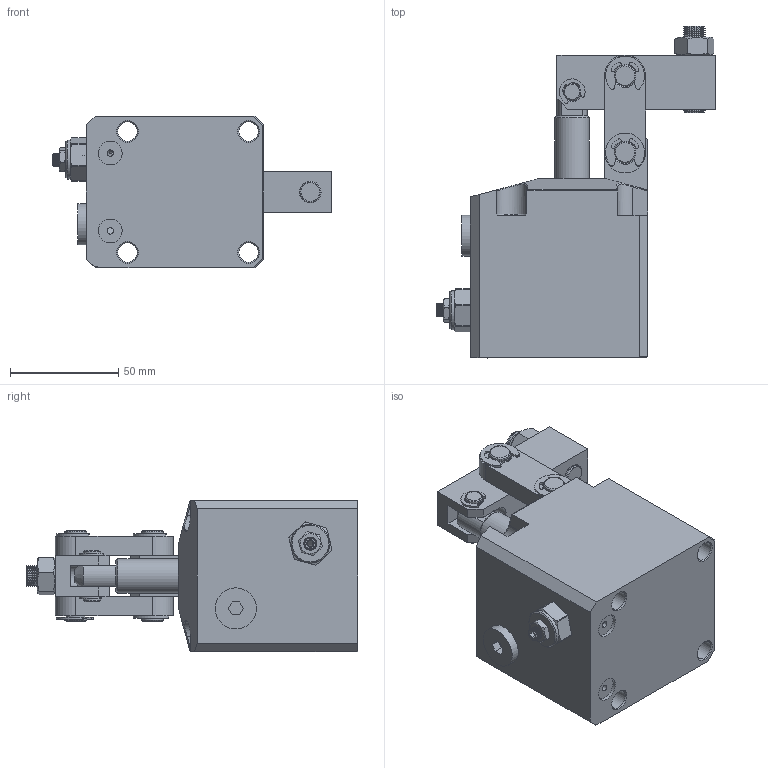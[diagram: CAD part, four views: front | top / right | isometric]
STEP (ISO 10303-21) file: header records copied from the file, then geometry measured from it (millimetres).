
FILE_DESCRIPTION(/* description */ ('STEP AP214'),/* implementation_level */ '2;1');
FILE_NAME(/* name */ 'D:\Vault_2016\Projekty\Clamptek\Hydraulic\CBLU\CBLU-45\STEP\CBLU-45C.stp',/* time_stamp */ '2021-05-06T12:37:13+02:00',/* author */ ('user'),/* organization */ (''),/* preprocessor_version */ 'ST-DEVELOPER v18.1',/* originating_system */ 'Autodesk Inventor 2021',/* authorisation */ '');
FILE_SCHEMA (('AUTOMOTIVE_DESIGN { 1 0 10303 214 3 1 1 }'));
Length unit declared in the file: millimetre
Products named in the file (13): CBLU-45C; 45C±¾Ìå_1_1_2; Á¬¸Ë; Áã¼þ3_1_2; 45Ñ¹°å; ¶ÌÏúÖá; ³¤ÏúÖá; Ð¡µ¯; ´ó¿Û; ÂÝÄ¸; ÂÝË¨M10; ÄÚÁù½Ç¶ÂÍ·×
îÐÂ1-4; CZL20µ÷ËÙ·§_1
Assembly tree (18 placements, depth 2):
  CBLU-45C
    45C±¾Ìå_1_1_2
    Á¬¸Ë  x2
    Áã¼þ3_1_2
    45Ñ¹°å
    ¶ÌÏúÖá
    ³¤ÏúÖá  x2
    Ð¡µ¯  x2
    ´ó¿Û  x4
    ÂÝÄ¸
    ÂÝË¨M10
    ÄÚÁù½Ç¶ÂÍ·×
îÐÂ1-4
    CZL20µ÷ËÙ·§_1
Bounding box: 129.4 x 153.5 x 70 mm (x, y, z)
Volume: 452605.7 mm3; surface area: 92314.3 mm2
Topology: 18 solids, 22 shells, 688 faces, 1796 edges, 1168 vertices
Faces by surface type: cylinder 252, plane 214, cone 153, bspline 69
Full cylindrical faces by diameter (mm): 2.5 x3, 3 x3, 5.3 x1, 6 x14, 6.9 x1, 7 x1, 7.5 x1, 8 x7, 8.376 x1, 8.5 x1, 8.9 x2, 9 x6, 10 x52, 11 x5, 11.5 x1, 11.9 x1, 13 x1, 16 x2, 16.8 x1, 18 x1, 19 x1, 45 x2
Entity records: 32177 total; most frequent: CARTESIAN_POINT 17520, ORIENTED_EDGE 3026, DIRECTION 2780, EDGE_CURVE 1532, AXIS2_PLACEMENT_3D 1053, VERTEX_POINT 993, LINE 674, VECTOR 674
